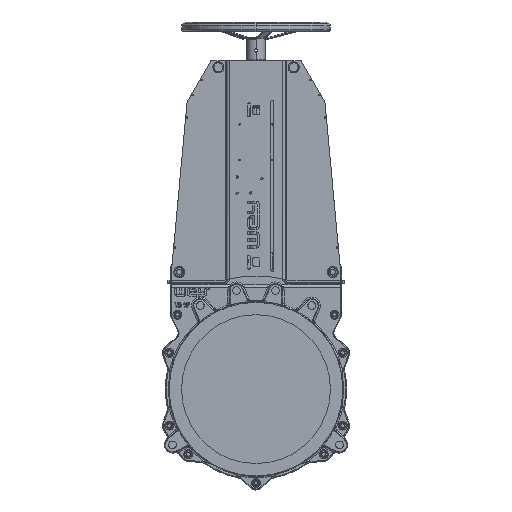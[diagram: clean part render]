
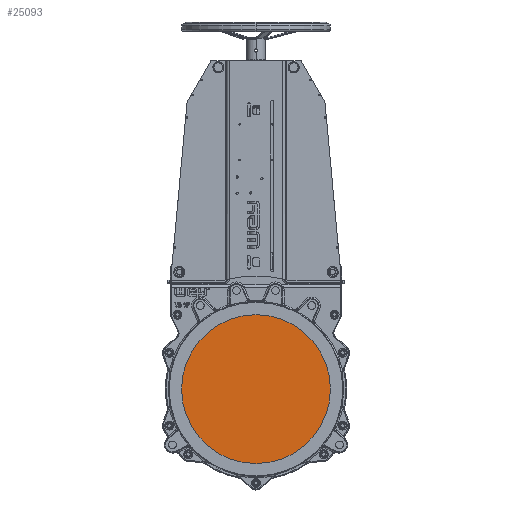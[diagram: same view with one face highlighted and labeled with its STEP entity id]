
A CAD part, top view. The second image highlights one B-rep face of the part: STEP entity #25093.
In plain terms, the highlighted planar face has unit normal (0, 0, 1).
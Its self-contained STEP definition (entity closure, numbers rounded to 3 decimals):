
#999 = CARTESIAN_POINT ( 'NONE',  ( 200., 0., -0.25 ) ) ;
#3996 = DIRECTION ( 'NONE',  ( 0., 0., 1. ) ) ;
#25093 = ADVANCED_FACE ( 'NONE', ( #36213 ), #27069, .T. ) ;
#27069 = PLANE ( 'NONE',  #134238 ) ;
#35384 = VERTEX_POINT ( 'NONE', #999 ) ;
#36213 = FACE_OUTER_BOUND ( 'NONE', #58495, .T. ) ;
#47774 = ORIENTED_EDGE ( 'NONE', *, *, #117463, .T. ) ;
#49213 = DIRECTION ( 'NONE',  ( 0., 0., 1. ) ) ;
#51223 = DIRECTION ( 'NONE',  ( 1., 0., 0. ) ) ;
#54901 = CARTESIAN_POINT ( 'NONE',  ( -200., 0., -0.25 ) ) ;
#56853 = EDGE_CURVE ( 'NONE', #35384, #78514, #152695, .T. ) ;
#58495 = EDGE_LOOP ( 'NONE', ( #88670, #47774 ) ) ;
#60046 = CIRCLE ( 'NONE', #118551, 200. ) ;
#75591 = CARTESIAN_POINT ( 'NONE',  ( 0., 0., -0.25 ) ) ;
#78514 = VERTEX_POINT ( 'NONE', #54901 ) ;
#87587 = DIRECTION ( 'NONE',  ( 1., 0., 0. ) ) ;
#88670 = ORIENTED_EDGE ( 'NONE', *, *, #56853, .T. ) ;
#117463 = EDGE_CURVE ( 'NONE', #78514, #35384, #60046, .T. ) ;
#118551 = AXIS2_PLACEMENT_3D ( 'NONE', #75591, #3996, #87587 ) ;
#120861 = CARTESIAN_POINT ( 'NONE',  ( 0., 0., -0.25 ) ) ;
#121275 = AXIS2_PLACEMENT_3D ( 'NONE', #120861, #49213, #132859 ) ;
#122819 = DIRECTION ( 'NONE',  ( 0., 0., 1. ) ) ;
#132859 = DIRECTION ( 'NONE',  ( 1., 0., 0. ) ) ;
#134238 = AXIS2_PLACEMENT_3D ( 'NONE', #146316, #122819, #51223 ) ;
#146316 = CARTESIAN_POINT ( 'NONE',  ( 0., 0., -0.25 ) ) ;
#152695 = CIRCLE ( 'NONE', #121275, 200. ) ;
